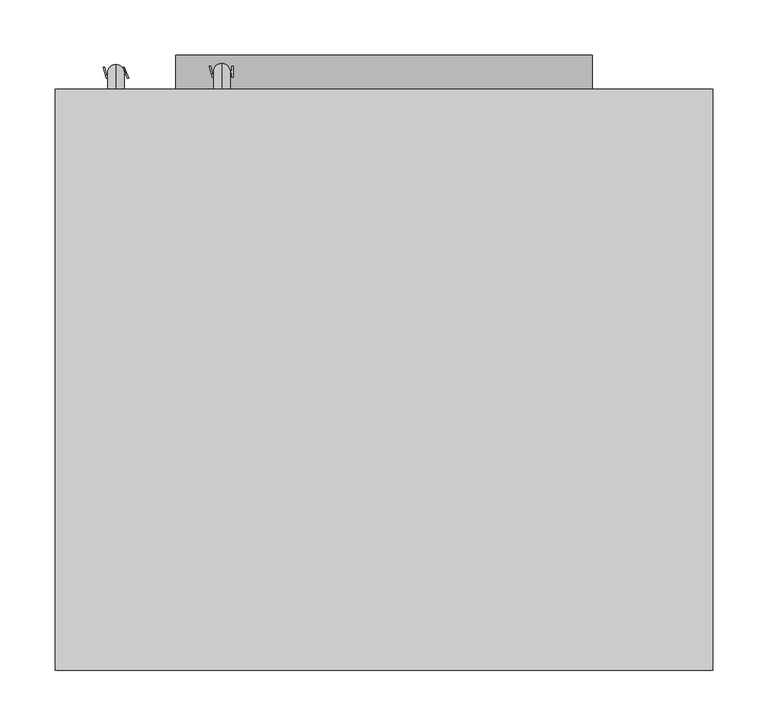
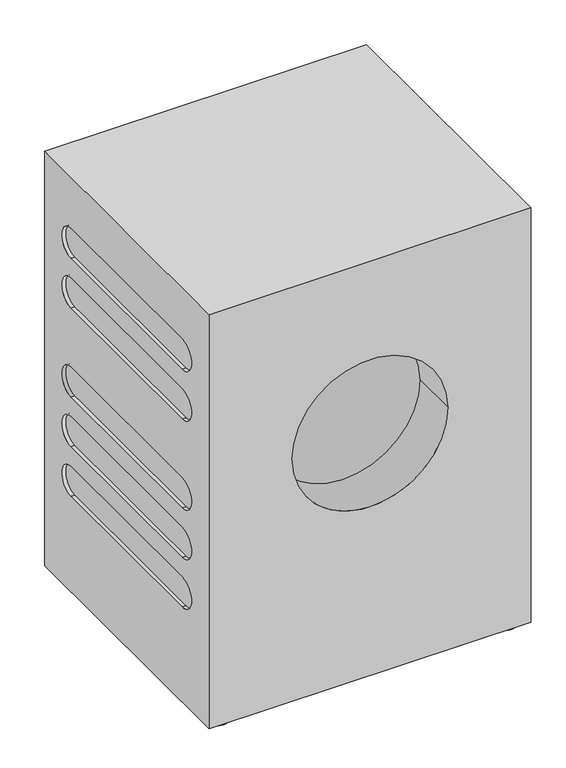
"""IFC4 building model written with IfcOpenShell, lengths in millimetres: proxy geometry, 12412760_A_WCE460WCS_LW : 11CE4601_A_12412760_WCE460WCS_LW."""

from ifc_helpers import new_model, si_unit, point, frame, frame_2d, origin, origin_with_axes, place, context, project, spatial, polyline, circle_curve, ellipse_curve, trimmed, segment, composite_curve, outline, extrude, source, transform, mapped, element, save
from ifc_brep_helpers import plane_surface, cylinder_surface, revolved_surface, advanced_brep


def specialty_equipment_8c3d0925(model_context):
    return source(origin(), model_context, "Body", "SolidModel", [
        extrude(outline(composite_curve([segment(trimmed(circle_curve(frame_2d((172.0, 0.0)), 85.0), [point((128.0, -72.7255113))], [point((128.0, 72.7255113))], False, "CARTESIAN"), True, "CONTINUOUS"), segment(polyline([(128.0, 72.7255113), (457.0, 186.7618805)]), True, "CONTINUOUS"), segment(trimmed(circle_curve(frame_2d((486.0, 0.0)), 189.0), [point((457.0, 186.7618805))], [point((457.0, -186.7618805))], False, "CARTESIAN"), True, "CONTINUOUS"), segment(polyline([(457.0, -186.7618805), (128.0, -72.7255113)]), True, "CONTINUOUS")], self_intersect=False)), frame((0.0, -32.0, 0.0), z_axis=(0.0, 1.0, 0.0), x_axis=(0.0, 0.0, 1.0)), (0.0, 0.0, 1.0), 31.0),
        extrude(outline(polyline([(-245.0283197, -21.9198802), (-247.6226621, -13.1308402), (-250.3496859, -21.9195554), (-251.6847859, -21.9195554), (-254.4297172, -11.8631004), (-253.1339679, -11.8631004), (-251.0443144, -20.5032988), (-248.5340813, -11.857379), (-246.6711164, -11.857379), (-244.1552565, -20.5022346), (-242.0681971, -11.8564437), (-240.7754796, -11.8564437), (-243.5175667, -21.9198802), (-245.0283197, -21.9198802)])), frame((0.0, 0.0, 722.0), z_axis=(0.0, 0.0, 1.0), x_axis=(1.0, 0.0, 0.0)), (0.0, 0.0, 1.0), 1.0),
        extrude(outline(polyline([(-239.0721098, -22.0032768), (-240.4069745, -22.0032768), (-236.3935979, -11.9549404), (-235.3188514, -11.9549404), (-231.3155433, -21.9958861), (-232.6216403, -21.9958861), (-233.7882604, -18.865268), (-237.929968, -18.865268), (-239.0721098, -22.0032768)]), holes=[polyline([(-237.4730851, -17.6099926), (-234.256037, -17.6099926), (-235.8835115, -13.2426749), (-237.4730851, -17.6099926)])]), frame((0.0, 0.0, 722.0), z_axis=(0.0, 0.0, 1.0), x_axis=(1.0, 0.0, 0.0)), (0.0, 0.0, 1.0), 1.0),
        extrude(outline(polyline([(-149.0371951, -21.0084005), (-151.6315375, -12.2193606), (-154.3585613, -21.0080758), (-155.6936613, -21.0080758), (-158.4385926, -10.9516208), (-157.1428433, -10.9516208), (-155.0531898, -19.5918192), (-152.5429567, -10.9458994), (-150.6799918, -10.9458994), (-148.1641319, -19.590755), (-146.0770725, -10.9449641), (-144.784355, -10.9449641), (-147.5264421, -21.0084005), (-149.0371951, -21.0084005)])), frame((0.0, 0.0, 728.0), z_axis=(0.0, 0.0, 1.0), x_axis=(1.0, 0.0, 0.0)), (0.0, 0.0, 1.0), 1.0),
        extrude(outline(polyline([(-137.7520367, -21.0), (-137.7520367, -17.5380382), (-139.4320631, -15.9333791), (-143.267056, -20.9969068), (-144.8092352, -20.9969068), (-140.3268814, -15.0786372), (-144.6471582, -10.9521715), (-142.8938795, -10.9521715), (-137.7520367, -15.8633471), (-137.7520367, -10.9502531), (-136.4793974, -10.9502531), (-136.4793974, -21.0), (-137.7520367, -21.0)])), frame((0.0, 0.0, 728.0), z_axis=(0.0, 0.0, 1.0), x_axis=(1.0, 0.0, 0.0)), (0.0, 0.0, 1.0), 1.0),
        advanced_brep(
        [(-243.0, -32.0, 760.5), (-243.0, -32.0, 745.5), (-243.0, -9.5, 760.5), (-243.0, -24.5, 745.5), (-243.0, -9.5, 723.0), (-243.0, -24.5, 723.0)],
        [
            (0, 1, circle_curve(frame((-243.0, -32.0, 753.0), z_axis=(0.0, -1.0, 0.0), x_axis=(0.0, 0.0, -1.0)), 7.5)),
            (1, 0, circle_curve(frame((-243.0, -32.0, 753.0), z_axis=(0.0, -1.0, 0.0), x_axis=(0.0, 0.0, -1.0)), 7.5)),
            (0, 2),
            (2, 3, ellipse_curve(frame((-243.0, -17.0, 753.0), z_axis=(0.0, -0.7071067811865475, 0.7071067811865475), x_axis=(0.0, -0.7071067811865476, -0.7071067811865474)), 10.6066017, 7.5)),
            (3, 1),
            (3, 2, ellipse_curve(frame((-243.0, -17.0, 753.0), z_axis=(0.0, -0.7071067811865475, 0.7071067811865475), x_axis=(0.0, -0.7071067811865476, -0.7071067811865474)), 10.6066017, 7.5)),
            (4, 5, circle_curve(frame((-243.0, -17.0, 723.0), z_axis=(0.0, 0.0, -1.0), x_axis=(0.0, -1.0, 0.0)), 7.5)),
            (5, 4, circle_curve(frame((-243.0, -17.0, 723.0), z_axis=(0.0, 0.0, -1.0), x_axis=(0.0, -1.0, 0.0)), 7.5)),
            (2, 4),
            (5, 3),
        ],
        [
            plane_surface(frame((-243.0, -32.0, 753.0), z_axis=(0.0, -1.0, 0.0), x_axis=(-1.0, 0.0, 0.0))),
            cylinder_surface(frame((-243.0, -32.0, 753.0), z_axis=(0.0, -1.0, 0.0), x_axis=(0.0, 0.0, -1.0)), 7.5),
            plane_surface(frame((-243.0, -17.0, 723.0), z_axis=(0.0, 0.0, -1.0), x_axis=(-1.0, 0.0, 0.0))),
            cylinder_surface(frame((-243.0, -17.0, 753.0), z_axis=(0.0, 0.0, 1.0), x_axis=(0.0, -1.0, 0.0)), 7.5),
        ],
        [
            (0, [[1, 2]]),
            (1, [[-1, 3, 4, 5]]),
            (1, [[-2, -5, 6, -3]]),
            (2, [[7, 8]]),
            (3, [[-4, 9, -8, 10]]),
            (3, [[-6, -10, -7, -9]]),
        ],
    ),
        advanced_brep(
        [(-147.0, -32.0, 766.5), (-147.0, -32.0, 751.5), (-147.0, -8.5, 766.5), (-147.0, -23.5, 751.5), (-147.0, -8.5, 729.0), (-147.0, -23.5, 729.0)],
        [
            (0, 1, circle_curve(frame((-147.0, -32.0, 759.0), z_axis=(0.0, -1.0, 0.0), x_axis=(0.0, 0.0, -1.0)), 7.5)),
            (1, 0, circle_curve(frame((-147.0, -32.0, 759.0), z_axis=(0.0, -1.0, 0.0), x_axis=(0.0, 0.0, -1.0)), 7.5)),
            (0, 2),
            (2, 3, ellipse_curve(frame((-147.0, -16.0, 759.0), z_axis=(0.0, -0.70710678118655, 0.707106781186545), x_axis=(0.0, -0.7071067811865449, -0.70710678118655)), 10.6066017, 7.5)),
            (3, 1),
            (3, 2, ellipse_curve(frame((-147.0, -16.0, 759.0), z_axis=(0.0, -0.70710678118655, 0.707106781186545), x_axis=(0.0, -0.7071067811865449, -0.70710678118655)), 10.6066017, 7.5)),
            (4, 5, circle_curve(frame((-147.0, -16.0, 729.0), z_axis=(0.0, 0.0, -1.0), x_axis=(0.0, -1.0, 0.0)), 7.5)),
            (5, 4, circle_curve(frame((-147.0, -16.0, 729.0), z_axis=(0.0, 0.0, -1.0), x_axis=(0.0, -1.0, 0.0)), 7.5)),
            (2, 4),
            (5, 3),
        ],
        [
            plane_surface(frame((-147.0, -32.0, 759.0), z_axis=(0.0, -1.0, 0.0), x_axis=(-1.0, 0.0, 0.0))),
            cylinder_surface(frame((-147.0, -32.0, 759.0), z_axis=(0.0, -1.0, 0.0), x_axis=(0.0, 0.0, -1.0)), 7.5),
            plane_surface(frame((-147.0, -16.0, 729.0), z_axis=(0.0, 0.0, -1.0), x_axis=(-1.0, 0.0, 0.0))),
            cylinder_surface(frame((-147.0, -16.0, 759.0), z_axis=(0.0, 0.0, 1.0), x_axis=(0.0, -1.0, 0.0)), 7.5),
        ],
        [
            (0, [[1, 2]]),
            (1, [[-1, 3, 4, 5]]),
            (1, [[-2, -5, 6, -3]]),
            (2, [[7, 8]]),
            (3, [[-4, 9, -8, 10]]),
            (3, [[-6, -10, -7, -9]]),
        ],
    ),
        extrude(outline(polyline([(-24.1489694, 55.8141378), (-30.1201763, 55.8141378), (-30.1201763, 52.8005704), (-24.4569949, 52.8005704), (-24.4569949, 51.521084), (-30.1201763, 51.521084), (-30.1201763, 48.2496698), (-23.9879713, 48.2496698), (-23.9879713, 46.9701834), (-31.3464231, 46.9701834), (-31.3464231, 57.0455767), (-24.1489694, 57.0455767), (-24.1489694, 55.8141378)])), frame((-91.0, 0.0, 0.0), z_axis=(1.0, 0.0, 0.0), x_axis=(0.0, 1.0, 0.0)), (0.0, 0.0, 1.0), 1.0),
        extrude(outline(polyline([(-20.8531587, 57.0429653), (-20.8531587, 48.2519801), (-15.8267296, 48.2519801), (-15.8267296, 46.9971234), (-22.1029105, 46.9971234), (-22.1029105, 57.0429653), (-20.8531587, 57.0429653)])), frame((-91.0, 0.0, 0.0), z_axis=(1.0, 0.0, 0.0), x_axis=(0.0, 1.0, 0.0)), (0.0, 0.0, 1.0), 1.0),
        extrude(outline(composite_curve([segment(trimmed(circle_curve(frame_2d((-24.5, 52.0)), 7.5), [point((-24.5, 44.5))], [point((-24.5, 59.5))], False, "CARTESIAN"), True, "CONTINUOUS"), segment(trimmed(circle_curve(frame_2d((-24.5, 52.0)), 7.5), [point((-24.5, 59.5))], [point((-24.5, 44.5))], False, "CARTESIAN"), True, "CONTINUOUS")], self_intersect=False)), frame((-121.0, 0.0, 0.0), z_axis=(1.0, 0.0, 0.0), x_axis=(0.0, 1.0, 0.0)), (0.0, 0.0, 1.0), 30.0),
        extrude(outline(polyline([(-157.0, -17.0), (-121.0, -17.0), (-121.0, -32.0), (-157.0, -32.0), (-157.0, -17.0)])), frame((0.0, 0.0, 38.5), z_axis=(0.0, 0.0, 1.0), x_axis=(1.0, 0.0, 0.0)), (0.0, 0.0, 1.0), 27.0),
        advanced_brep(
        [(298.0, -32.0, 818.0), (-298.0, -32.0, 818.0), (-298.0, -559.0, 818.0), (298.0, -559.0, 818.0), (298.0, -32.0, 8.0), (298.0, -559.0, 8.0), (-298.0, -559.0, 8.0), (-298.0, -32.0, 8.0), (-298.0, -117.0, 253.0), (-298.0, -474.0, 253.0), (-298.0, -474.0, 195.0), (-298.0, -117.0, 195.0), (-298.0, -117.0, 350.0), (-298.0, -474.0, 350.0), (-298.0, -474.0, 292.0), (-298.0, -117.0, 292.0), (-298.0, -474.0, 563.0), (-298.0, -117.0, 563.0), (-298.0, -117.0, 621.0), (-298.0, -474.0, 621.0), (-298.0, -117.0, 718.0), (-298.0, -474.0, 718.0), (-298.0, -474.0, 660.0), (-298.0, -117.0, 660.0), (-298.0, -117.0, 447.0), (-298.0, -474.0, 447.0), (-298.0, -474.0, 389.0), (-298.0, -117.0, 389.0), (144.0, -559.0, 482.0), (-144.0, -559.0, 482.0), (298.0, -474.0, 253.0), (298.0, -117.0, 253.0), (298.0, -117.0, 195.0), (298.0, -474.0, 195.0), (298.0, -474.0, 350.0), (298.0, -117.0, 350.0), (298.0, -117.0, 292.0), (298.0, -474.0, 292.0), (298.0, -117.0, 563.0), (298.0, -474.0, 563.0), (298.0, -474.0, 621.0), (298.0, -117.0, 621.0), (298.0, -474.0, 718.0), (298.0, -117.0, 718.0), (298.0, -117.0, 660.0), (298.0, -474.0, 660.0), (298.0, -474.0, 447.0), (298.0, -117.0, 447.0), (298.0, -117.0, 389.0), (298.0, -474.0, 389.0), (291.0, -117.0, 253.0), (291.0, -474.0, 253.0), (291.0, -474.0, 195.0), (291.0, -117.0, 195.0), (291.0, -117.0, 350.0), (291.0, -474.0, 350.0), (291.0, -474.0, 292.0), (291.0, -117.0, 292.0), (291.0, -474.0, 563.0), (291.0, -117.0, 563.0), (291.0, -117.0, 621.0), (291.0, -474.0, 621.0), (291.0, -117.0, 718.0), (291.0, -474.0, 718.0), (291.0, -474.0, 660.0), (291.0, -117.0, 660.0), (-291.0, -117.0, 253.0), (-291.0, -117.0, 195.0), (-291.0, -474.0, 195.0), (-291.0, -474.0, 253.0), (-291.0, -117.0, 350.0), (-291.0, -117.0, 292.0), (-291.0, -474.0, 292.0), (-291.0, -474.0, 350.0), (-291.0, -474.0, 563.0), (-291.0, -474.0, 621.0), (-291.0, -117.0, 621.0), (-291.0, -117.0, 563.0), (-291.0, -117.0, 718.0), (-291.0, -117.0, 660.0), (-291.0, -474.0, 660.0), (-291.0, -474.0, 718.0), (-144.0, -471.0, 482.0), (144.0, -471.0, 482.0), (240.0, -148.0, 482.0), (-240.0, -148.0, 482.0), (240.0, -471.0, 482.0), (-240.0, -471.0, 482.0), (291.0, -117.0, 447.0), (291.0, -474.0, 447.0), (291.0, -474.0, 389.0), (291.0, -117.0, 389.0), (-291.0, -117.0, 447.0), (-291.0, -117.0, 389.0), (-291.0, -474.0, 389.0), (-291.0, -474.0, 447.0)],
        [
            (0, 1),
            (1, 2),
            (2, 3),
            (3, 0),
            (4, 5),
            (5, 6),
            (6, 7),
            (7, 4),
            (0, 4),
            (7, 1),
            (6, 2),
            (8, 9),
            (9, 10, circle_curve(frame((-298.0, -474.0, 224.0), z_axis=(1.0, 0.0, 0.0), x_axis=(0.0, 0.0, 1.0)), 29.0)),
            (10, 11),
            (11, 8, circle_curve(frame((-298.0, -117.0, 224.0), z_axis=(1.0, 0.0, 0.0), x_axis=(0.0, 0.0, 1.0)), 29.0)),
            (12, 13),
            (13, 14, circle_curve(frame((-298.0, -474.0, 321.0), z_axis=(1.0, 0.0, 0.0), x_axis=(0.0, 0.0, 1.0)), 29.0)),
            (14, 15),
            (15, 12, circle_curve(frame((-298.0, -117.0, 321.0), z_axis=(1.0, 0.0, 0.0), x_axis=(0.0, 0.0, 1.0)), 29.0)),
            (16, 17),
            (17, 18, circle_curve(frame((-298.0, -117.0, 592.0), z_axis=(1.0, 0.0, 0.0), x_axis=(0.0, 0.0, 1.0)), 29.0)),
            (18, 19),
            (19, 16, circle_curve(frame((-298.0, -474.0, 592.0), z_axis=(1.0, 0.0, 0.0), x_axis=(0.0, 0.0, 1.0)), 29.0)),
            (20, 21),
            (21, 22, circle_curve(frame((-298.0, -474.0, 689.0), z_axis=(1.0, 0.0, 0.0), x_axis=(0.0, 0.0, 1.0)), 29.0)),
            (22, 23),
            (23, 20, circle_curve(frame((-298.0, -117.0, 689.0), z_axis=(1.0, 0.0, 0.0), x_axis=(0.0, 0.0, 1.0)), 29.0)),
            (24, 25),
            (25, 26, circle_curve(frame((-298.0, -474.0, 418.0), z_axis=(1.0, 0.0, 0.0), x_axis=(0.0, 0.0, -1.0)), 29.0)),
            (26, 27),
            (27, 24, circle_curve(frame((-298.0, -117.0, 418.0), z_axis=(1.0, 0.0, 0.0), x_axis=(0.0, 0.0, -1.0)), 29.0)),
            (5, 3),
            (28, 29, circle_curve(frame((0.0, -559.0, 482.0), z_axis=(0.0, 1.0, 0.0), x_axis=(-1.0, 0.0, 0.0)), 144.0)),
            (29, 28, circle_curve(frame((0.0, -559.0, 482.0), z_axis=(0.0, 1.0, 0.0), x_axis=(-1.0, 0.0, 0.0)), 144.0)),
            (30, 31),
            (31, 32, circle_curve(frame((298.0, -117.0, 224.0), z_axis=(-1.0, 0.0, 0.0), x_axis=(0.0, 0.0, 1.0)), 29.0)),
            (32, 33),
            (33, 30, circle_curve(frame((298.0, -474.0, 224.0), z_axis=(-1.0, 0.0, 0.0), x_axis=(0.0, 0.0, 1.0)), 29.0)),
            (34, 35),
            (35, 36, circle_curve(frame((298.0, -117.0, 321.0), z_axis=(-1.0, 0.0, 0.0), x_axis=(0.0, 0.0, 1.0)), 29.0)),
            (36, 37),
            (37, 34, circle_curve(frame((298.0, -474.0, 321.0), z_axis=(-1.0, 0.0, 0.0), x_axis=(0.0, 0.0, 1.0)), 29.0)),
            (38, 39),
            (39, 40, circle_curve(frame((298.0, -474.0, 592.0), z_axis=(-1.0, 0.0, 0.0), x_axis=(0.0, 0.0, 1.0)), 29.0)),
            (40, 41),
            (41, 38, circle_curve(frame((298.0, -117.0, 592.0), z_axis=(-1.0, 0.0, 0.0), x_axis=(0.0, 0.0, 1.0)), 29.0)),
            (42, 43),
            (43, 44, circle_curve(frame((298.0, -117.0, 689.0), z_axis=(-1.0, 0.0, 0.0), x_axis=(0.0, 0.0, 1.0)), 29.0)),
            (44, 45),
            (45, 42, circle_curve(frame((298.0, -474.0, 689.0), z_axis=(-1.0, 0.0, 0.0), x_axis=(0.0, 0.0, 1.0)), 29.0)),
            (46, 47),
            (47, 48, circle_curve(frame((298.0, -117.0, 418.0), z_axis=(-1.0, 0.0, 0.0), x_axis=(0.0, 0.0, -1.0)), 29.0)),
            (48, 49),
            (49, 46, circle_curve(frame((298.0, -474.0, 418.0), z_axis=(-1.0, 0.0, 0.0), x_axis=(0.0, 0.0, -1.0)), 29.0)),
            (50, 51),
            (51, 52, circle_curve(frame((291.0, -474.0, 224.0), z_axis=(1.0, 0.0, 0.0), x_axis=(0.0, 0.0, 1.0)), 29.0)),
            (52, 53),
            (53, 50, circle_curve(frame((291.0, -117.0, 224.0), z_axis=(1.0, 0.0, 0.0), x_axis=(0.0, 0.0, 1.0)), 29.0)),
            (54, 55),
            (55, 56, circle_curve(frame((291.0, -474.0, 321.0), z_axis=(1.0, 0.0, 0.0), x_axis=(0.0, 0.0, 1.0)), 29.0)),
            (56, 57),
            (57, 54, circle_curve(frame((291.0, -117.0, 321.0), z_axis=(1.0, 0.0, 0.0), x_axis=(0.0, 0.0, 1.0)), 29.0)),
            (58, 59),
            (59, 60, circle_curve(frame((291.0, -117.0, 592.0), z_axis=(1.0, 0.0, 0.0), x_axis=(0.0, 0.0, 1.0)), 29.0)),
            (60, 61),
            (61, 58, circle_curve(frame((291.0, -474.0, 592.0), z_axis=(1.0, 0.0, 0.0), x_axis=(0.0, 0.0, 1.0)), 29.0)),
            (62, 63),
            (63, 64, circle_curve(frame((291.0, -474.0, 689.0), z_axis=(1.0, 0.0, 0.0), x_axis=(0.0, 0.0, 1.0)), 29.0)),
            (64, 65),
            (65, 62, circle_curve(frame((291.0, -117.0, 689.0), z_axis=(1.0, 0.0, 0.0), x_axis=(0.0, 0.0, 1.0)), 29.0)),
            (50, 31),
            (30, 51),
            (33, 52),
            (32, 53),
            (54, 35),
            (34, 55),
            (37, 56),
            (36, 57),
            (58, 39),
            (38, 59),
            (41, 60),
            (40, 61),
            (62, 43),
            (42, 63),
            (45, 64),
            (44, 65),
            (66, 67, circle_curve(frame((-291.0, -117.0, 224.0), z_axis=(-1.0, 0.0, 0.0), x_axis=(0.0, 0.0, 1.0)), 29.0)),
            (67, 68),
            (68, 69, circle_curve(frame((-291.0, -474.0, 224.0), z_axis=(-1.0, 0.0, 0.0), x_axis=(0.0, 0.0, 1.0)), 29.0)),
            (69, 66),
            (70, 71, circle_curve(frame((-291.0, -117.0, 321.0), z_axis=(-1.0, 0.0, 0.0), x_axis=(0.0, 0.0, 1.0)), 29.0)),
            (71, 72),
            (72, 73, circle_curve(frame((-291.0, -474.0, 321.0), z_axis=(-1.0, 0.0, 0.0), x_axis=(0.0, 0.0, 1.0)), 29.0)),
            (73, 70),
            (74, 75, circle_curve(frame((-291.0, -474.0, 592.0), z_axis=(-1.0, 0.0, 0.0), x_axis=(0.0, 0.0, 1.0)), 29.0)),
            (75, 76),
            (76, 77, circle_curve(frame((-291.0, -117.0, 592.0), z_axis=(-1.0, 0.0, 0.0), x_axis=(0.0, 0.0, 1.0)), 29.0)),
            (77, 74),
            (78, 79, circle_curve(frame((-291.0, -117.0, 689.0), z_axis=(-1.0, 0.0, 0.0), x_axis=(0.0, 0.0, 1.0)), 29.0)),
            (79, 80),
            (80, 81, circle_curve(frame((-291.0, -474.0, 689.0), z_axis=(-1.0, 0.0, 0.0), x_axis=(0.0, 0.0, 1.0)), 29.0)),
            (81, 78),
            (69, 9),
            (8, 66),
            (68, 10),
            (67, 11),
            (73, 13),
            (12, 70),
            (72, 14),
            (71, 15),
            (77, 17),
            (16, 74),
            (76, 18),
            (75, 19),
            (81, 21),
            (20, 78),
            (80, 22),
            (79, 23),
            (82, 29),
            (28, 83),
            (83, 82, circle_curve(frame((0.0, -471.0, 482.0), z_axis=(0.0, 1.0, 0.0), x_axis=(-1.0, 0.0, 0.0)), 144.0)),
            (82, 83, circle_curve(frame((0.0, -471.0, 482.0), z_axis=(0.0, 1.0, 0.0), x_axis=(-1.0, 0.0, 0.0)), 144.0)),
            (84, 85, circle_curve(frame((0.0, -148.0, 482.0), z_axis=(0.0, -1.0, 0.0), x_axis=(-1.0, 0.0, 0.0)), 240.0)),
            (85, 84, circle_curve(frame((0.0, -148.0, 482.0), z_axis=(0.0, -1.0, 0.0), x_axis=(-1.0, 0.0, 0.0)), 240.0)),
            (86, 87, circle_curve(frame((0.0, -471.0, 482.0), z_axis=(0.0, 1.0, 0.0), x_axis=(-1.0, 0.0, 0.0)), 240.0)),
            (87, 86, circle_curve(frame((0.0, -471.0, 482.0), z_axis=(0.0, 1.0, 0.0), x_axis=(-1.0, 0.0, 0.0)), 240.0)),
            (85, 87),
            (86, 84),
            (88, 89),
            (89, 90, circle_curve(frame((291.0, -474.0, 418.0), z_axis=(1.0, 0.0, 0.0), x_axis=(0.0, 0.0, -1.0)), 29.0)),
            (90, 91),
            (91, 88, circle_curve(frame((291.0, -117.0, 418.0), z_axis=(1.0, 0.0, 0.0), x_axis=(0.0, 0.0, -1.0)), 29.0)),
            (88, 47),
            (46, 89),
            (49, 90),
            (48, 91),
            (92, 93, circle_curve(frame((-291.0, -117.0, 418.0), z_axis=(-1.0, 0.0, 0.0), x_axis=(0.0, 0.0, -1.0)), 29.0)),
            (93, 94),
            (94, 95, circle_curve(frame((-291.0, -474.0, 418.0), z_axis=(-1.0, 0.0, 0.0), x_axis=(0.0, 0.0, -1.0)), 29.0)),
            (95, 92),
            (95, 25),
            (24, 92),
            (94, 26),
            (93, 27),
        ],
        [
            plane_surface(frame((-298.0, -32.0, 818.0), z_axis=(0.0, 0.0, 1.0), x_axis=(-1.0, 0.0, 0.0))),
            plane_surface(frame((-298.0, -32.0, 8.0), z_axis=(0.0, 0.0, -1.0), x_axis=(1.0, 0.0, 0.0))),
            plane_surface(frame((298.0, -32.0, 818.0), z_axis=(0.0, 1.0, 0.0), x_axis=(0.0, 0.0, -1.0))),
            plane_surface(frame((-298.0, -32.0, 818.0), z_axis=(-1.0, 0.0, 0.0), x_axis=(0.0, 0.0, -1.0))),
            plane_surface(frame((-298.0, -559.0, 818.0), z_axis=(0.0, -1.0, 0.0), x_axis=(0.0, 0.0, -1.0))),
            plane_surface(frame((298.0, -559.0, 818.0), z_axis=(1.0, 0.0, 0.0), x_axis=(0.0, 0.0, -1.0))),
            plane_surface(frame((291.0, -474.0, 253.0), z_axis=(1.0, 0.0, 0.0), x_axis=(0.0, 1.0, 0.0))),
            plane_surface(frame((298.0, -117.0, 253.0), z_axis=(0.0, 0.0, -1.0), x_axis=(-1.0, 0.0, 0.0))),
            revolved_surface(polyline([(298.0, -474.0, 253.0), (291.0, -474.0, 253.0)]), (291.0, -474.0, 224.0), (1.0, 0.0, 0.0)),
            plane_surface(frame((298.0, -474.0, 195.0), z_axis=(0.0, 0.0, 1.0), x_axis=(-1.0, 0.0, 0.0))),
            revolved_surface(polyline([(298.0, -117.0, 253.0), (291.0, -117.0, 253.0)]), (291.0, -117.0, 224.0), (1.0, 0.0, 0.0)),
            plane_surface(frame((298.0, -117.0, 350.0), z_axis=(0.0, 0.0, -1.0), x_axis=(-1.0, 0.0, 0.0))),
            revolved_surface(polyline([(298.0, -474.0, 350.0), (291.0, -474.0, 350.0)]), (298.0, -474.0, 321.0), (1.0, 0.0, 0.0)),
            plane_surface(frame((298.0, -474.0, 292.0), z_axis=(0.0, 0.0, 1.0), x_axis=(-1.0, 0.0, 0.0))),
            revolved_surface(polyline([(298.0, -117.0, 350.0), (291.0, -117.0, 350.0)]), (298.0, -117.0, 321.0), (1.0, 0.0, 0.0)),
            plane_surface(frame((298.0, -474.0, 563.0), z_axis=(0.0, 0.0, 1.0), x_axis=(-1.0, 0.0, 0.0))),
            revolved_surface(polyline([(298.0, -117.0, 621.0), (291.0, -117.0, 621.0)]), (298.0, -117.0, 592.0), (1.0, 0.0, 0.0)),
            plane_surface(frame((298.0, -117.0, 621.0), z_axis=(0.0, 0.0, -1.0), x_axis=(-1.0, 0.0, 0.0))),
            revolved_surface(polyline([(298.0, -474.0, 621.0), (291.0, -474.0, 621.0)]), (298.0, -474.0, 592.0), (1.0, 0.0, 0.0)),
            plane_surface(frame((298.0, -117.0, 718.0), z_axis=(0.0, 0.0, -1.0), x_axis=(-1.0, 0.0, 0.0))),
            revolved_surface(polyline([(298.0, -474.0, 718.0), (291.0, -474.0, 718.0)]), (298.0, -474.0, 689.0), (1.0, 0.0, 0.0)),
            plane_surface(frame((298.0, -474.0, 660.0), z_axis=(0.0, 0.0, 1.0), x_axis=(-1.0, 0.0, 0.0))),
            revolved_surface(polyline([(298.0, -117.0, 718.0), (291.0, -117.0, 718.0)]), (298.0, -117.0, 689.0), (1.0, 0.0, 0.0)),
            plane_surface(frame((-291.0, -474.0, 253.0), z_axis=(-1.0, 0.0, 0.0), x_axis=(0.0, -1.0, 0.0))),
            plane_surface(frame((-291.0, -117.0, 253.0), z_axis=(0.0, 0.0, -1.0), x_axis=(-1.0, 0.0, 0.0))),
            revolved_surface(polyline([(-291.0, -474.0, 253.0), (-298.0, -474.0, 253.0)]), (-298.0, -474.0, 224.0), (1.0, 0.0, 0.0)),
            plane_surface(frame((-291.0, -474.0, 195.0), z_axis=(0.0, 0.0, 1.0), x_axis=(-1.0, 0.0, 0.0))),
            revolved_surface(polyline([(-291.0, -117.0, 253.0), (-298.0, -117.0, 253.0)]), (-298.0, -117.0, 224.0), (1.0, 0.0, 0.0)),
            plane_surface(frame((-291.0, -117.0, 350.0), z_axis=(0.0, 0.0, -1.0), x_axis=(-1.0, 0.0, 0.0))),
            revolved_surface(polyline([(-291.0, -474.0, 350.0), (-298.0, -474.0, 350.0)]), (-298.0, -474.0, 321.0), (1.0, 0.0, 0.0)),
            plane_surface(frame((-291.0, -474.0, 292.0), z_axis=(0.0, 0.0, 1.0), x_axis=(-1.0, 0.0, 0.0))),
            revolved_surface(polyline([(-291.0, -117.0, 350.0), (-298.0, -117.0, 350.0)]), (-298.0, -117.0, 321.0), (1.0, 0.0, 0.0)),
            plane_surface(frame((-291.0, -474.0, 563.0), z_axis=(0.0, 0.0, 1.0), x_axis=(-1.0, 0.0, 0.0))),
            revolved_surface(polyline([(-291.0, -117.0, 621.0), (-298.0, -117.0, 621.0)]), (-298.0, -117.0, 592.0), (1.0, 0.0, 0.0)),
            plane_surface(frame((-291.0, -117.0, 621.0), z_axis=(0.0, 0.0, -1.0), x_axis=(-1.0, 0.0, 0.0))),
            revolved_surface(polyline([(-291.0, -474.0, 621.0), (-298.0, -474.0, 621.0)]), (-298.0, -474.0, 592.0), (1.0, 0.0, 0.0)),
            plane_surface(frame((-291.0, -117.0, 718.0), z_axis=(0.0, 0.0, -1.0), x_axis=(-1.0, 0.0, 0.0))),
            revolved_surface(polyline([(-291.0, -474.0, 718.0), (-298.0, -474.0, 718.0)]), (-298.0, -474.0, 689.0), (1.0, 0.0, 0.0)),
            plane_surface(frame((-291.0, -474.0, 660.0), z_axis=(0.0, 0.0, 1.0), x_axis=(-1.0, 0.0, 0.0))),
            revolved_surface(polyline([(-291.0, -117.0, 718.0), (-298.0, -117.0, 718.0)]), (-298.0, -117.0, 689.0), (1.0, 0.0, 0.0)),
            revolved_surface(polyline([(-144.0, -471.0, 482.0), (-144.0, -559.0, 482.0)]), (0.0, -559.0, 482.0), (0.0, 1.0, 0.0)),
            plane_surface(frame((-240.0, -148.0, 482.0), z_axis=(0.0, -1.0, 0.0), x_axis=(0.0, 0.0, 1.0))),
            plane_surface(frame((-240.0, -471.0, 482.0), z_axis=(0.0, 1.0, 0.0), x_axis=(0.0, 0.0, -1.0))),
            revolved_surface(polyline([(-240.0, -148.0, 482.0), (-240.0, -471.0, 482.0)]), (0.0, -471.0, 482.0), (0.0, 1.0, 0.0)),
            plane_surface(frame((291.0, -117.0, 389.0), z_axis=(1.0, 0.0, 0.0), x_axis=(0.0, -1.0, 0.0))),
            plane_surface(frame((291.0, -474.0, 447.0), z_axis=(0.0, 0.0, -1.0), x_axis=(1.0, 0.0, 0.0))),
            revolved_surface(polyline([(291.0, -474.0, 389.0), (298.0, -474.0, 389.0)]), (308.0, -474.0, 418.0), (-1.0, 0.0, 0.0)),
            plane_surface(frame((291.0, -117.0, 389.0), z_axis=(0.0, 0.0, 1.0), x_axis=(1.0, 0.0, 0.0))),
            revolved_surface(polyline([(291.0, -117.0, 389.0), (298.0, -117.0, 389.0)]), (308.0, -117.0, 418.0), (-1.0, 0.0, 0.0)),
            plane_surface(frame((-291.0, -117.0, 389.0), z_axis=(-1.0, 0.0, 0.0), x_axis=(0.0, 1.0, 0.0))),
            plane_surface(frame((-308.0, -474.0, 447.0), z_axis=(0.0, 0.0, -1.0), x_axis=(1.0, 0.0, 0.0))),
            revolved_surface(polyline([(-298.0, -474.0, 389.0), (-291.0, -474.0, 389.0)]), (-291.0, -474.0, 418.0), (-1.0, 0.0, 0.0)),
            plane_surface(frame((-308.0, -117.0, 389.0), z_axis=(0.0, 0.0, 1.0), x_axis=(1.0, 0.0, 0.0))),
            revolved_surface(polyline([(-298.0, -117.0, 389.0), (-291.0, -117.0, 389.0)]), (-291.0, -117.0, 418.0), (-1.0, 0.0, 0.0)),
        ],
        [
            (0, [[1, 2, 3, 4]]),
            (1, [[5, 6, 7, 8]]),
            (2, [[-1, 9, -8, 10]]),
            (3, [[-2, -10, -7, 11], [12, 13, 14, 15], [16, 17, 18, 19], [20, 21, 22, 23], [24, 25, 26, 27], [28, 29, 30, 31]]),
            (4, [[-3, -11, -6, 32], [33, 34]]),
            (5, [[-4, -32, -5, -9], [35, 36, 37, 38], [39, 40, 41, 42], [43, 44, 45, 46], [47, 48, 49, 50], [51, 52, 53, 54]]),
            (6, [[55, 56, 57, 58]]),
            (6, [[59, 60, 61, 62]]),
            (6, [[63, 64, 65, 66]]),
            (6, [[67, 68, 69, 70]]),
            (7, [[-55, 71, -35, 72]]),
            (8, [[-56, -72, -38, 73]]),
            (9, [[-57, -73, -37, 74]]),
            (10, [[-58, -74, -36, -71]]),
            (11, [[-59, 75, -39, 76]]),
            (12, [[-60, -76, -42, 77]]),
            (13, [[-61, -77, -41, 78]]),
            (14, [[-62, -78, -40, -75]]),
            (15, [[-63, 79, -43, 80]]),
            (16, [[-64, -80, -46, 81]]),
            (17, [[-65, -81, -45, 82]]),
            (18, [[-66, -82, -44, -79]]),
            (19, [[-67, 83, -47, 84]]),
            (20, [[-68, -84, -50, 85]]),
            (21, [[-69, -85, -49, 86]]),
            (22, [[-70, -86, -48, -83]]),
            (23, [[87, 88, 89, 90]]),
            (23, [[91, 92, 93, 94]]),
            (23, [[95, 96, 97, 98]]),
            (23, [[99, 100, 101, 102]]),
            (24, [[-90, 103, -12, 104]]),
            (25, [[-89, 105, -13, -103]]),
            (26, [[-88, 106, -14, -105]]),
            (27, [[-87, -104, -15, -106]]),
            (28, [[-94, 107, -16, 108]]),
            (29, [[-93, 109, -17, -107]]),
            (30, [[-92, 110, -18, -109]]),
            (31, [[-91, -108, -19, -110]]),
            (32, [[-98, 111, -20, 112]]),
            (33, [[-97, 113, -21, -111]]),
            (34, [[-96, 114, -22, -113]]),
            (35, [[-95, -112, -23, -114]]),
            (36, [[-102, 115, -24, 116]]),
            (37, [[-101, 117, -25, -115]]),
            (38, [[-100, 118, -26, -117]]),
            (39, [[-99, -116, -27, -118]]),
            (40, [[119, -33, 120, 121]]),
            (40, [[-119, 122, -120, -34]]),
            (41, [[123, 124]]),
            (42, [[125, 126], [-121, -122]]),
            (43, [[-124, 127, -125, 128]]),
            (43, [[-123, -128, -126, -127]]),
            (44, [[129, 130, 131, 132]]),
            (45, [[-129, 133, -51, 134]]),
            (46, [[-130, -134, -54, 135]]),
            (47, [[-131, -135, -53, 136]]),
            (48, [[-132, -136, -52, -133]]),
            (49, [[137, 138, 139, 140]]),
            (50, [[-140, 141, -28, 142]]),
            (51, [[-139, 143, -29, -141]]),
            (52, [[-138, 144, -30, -143]]),
            (53, [[-137, -142, -31, -144]]),
        ],
    ),
        extrude(outline(composite_curve([segment(trimmed(circle_curve(frame_2d((-267.5, -61.0)), 20.0), [point((-247.5, -61.0))], [point((-287.5, -61.0))], False, "CARTESIAN"), True, "CONTINUOUS"), segment(trimmed(circle_curve(frame_2d((-267.5, -61.0)), 20.0), [point((-287.5, -61.0))], [point((-247.5, -61.0))], False, "CARTESIAN"), True, "CONTINUOUS")], self_intersect=False)), origin_with_axes(), (0.0, 0.0, 1.0), 8.0),
        extrude(outline(composite_curve([segment(trimmed(circle_curve(frame_2d((267.5, -61.0)), 20.0), [point((287.5, -61.0))], [point((247.5, -61.0))], False, "CARTESIAN"), True, "CONTINUOUS"), segment(trimmed(circle_curve(frame_2d((267.5, -61.0)), 20.0), [point((247.5, -61.0))], [point((287.5, -61.0))], False, "CARTESIAN"), True, "CONTINUOUS")], self_intersect=False)), origin_with_axes(), (0.0, 0.0, 1.0), 8.0),
        extrude(outline(composite_curve([segment(trimmed(circle_curve(frame_2d((267.5, -531.0)), 20.0), [point((287.5, -531.0))], [point((247.5, -531.0))], False, "CARTESIAN"), True, "CONTINUOUS"), segment(trimmed(circle_curve(frame_2d((267.5, -531.0)), 20.0), [point((247.5, -531.0))], [point((287.5, -531.0))], False, "CARTESIAN"), True, "CONTINUOUS")], self_intersect=False)), origin_with_axes(), (0.0, 0.0, 1.0), 8.0),
        extrude(outline(composite_curve([segment(trimmed(circle_curve(frame_2d((-267.5, -531.0)), 20.0), [point((-247.5, -531.0))], [point((-287.5, -531.0))], False, "CARTESIAN"), True, "CONTINUOUS"), segment(trimmed(circle_curve(frame_2d((-267.5, -531.0)), 20.0), [point((-287.5, -531.0))], [point((-247.5, -531.0))], False, "CARTESIAN"), True, "CONTINUOUS")], self_intersect=False)), origin_with_axes(), (0.0, 0.0, 1.0), 8.0),
    ])


if __name__ == "__main__":
    model = new_model("IFC4")
    model_context = context("Model", 3, world=origin())
    ifc_project = project(units=[si_unit("LENGTHUNIT", "METRE", prefix="MILLI")], contexts=[model_context])
    site = spatial("IfcSite", under=ifc_project)
    building = spatial("IfcBuilding", under=site)
    placement = place(None, origin())
    specialty_equipment_shape = specialty_equipment_8c3d0925(model_context)
    element("IfcBuildingElementProxy", 1, Name="12412760_A_WCE460WCS_LW : 11CE4601_A_12412760_WCE460WCS_LW", ObjectType="12412760_A_WCE460WCS_LW : 11CE4601_A_12412760_WCE460WCS_LW", at=placement, inside=building, context=model_context, shape_type="MappedRepresentation", body=[
        mapped(specialty_equipment_shape, transform((0.0, 0.0, 0.0), x_axis=(1.0, 0.0, 0.0), y_axis=(0.0, 1.0, 0.0), z_axis=(0.0, 0.0, 1.0))),
    ])
    save(model, "model.ifc")
